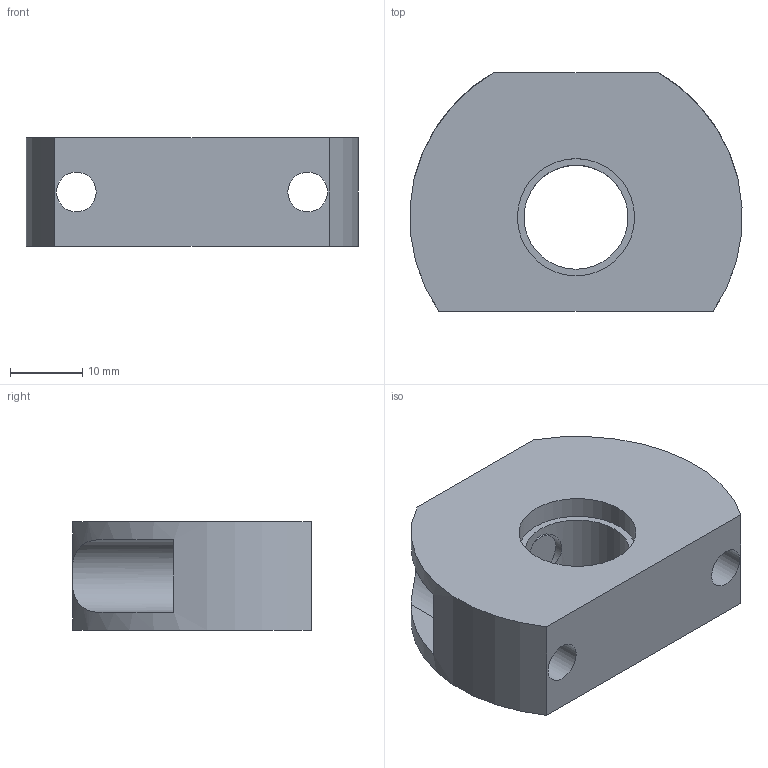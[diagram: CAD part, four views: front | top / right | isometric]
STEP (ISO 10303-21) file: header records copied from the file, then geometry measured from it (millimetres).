
FILE_DESCRIPTION( ( 'STEP AP203' ), '1' );
FILE_NAME( 'C:/Temp/Ganter_Step_05_03_2020/data/3_1/gn612_1/gn612_1_b/Mounting block GN 612.1-M16x1,5-B.stp', '2020-03-12T08:34:41', ( 'License CC BY-ND 4.0' ), ( 'CADENAS' ), ' ', 'PARTsolutions', ' ' );
FILE_SCHEMA( ( 'CONFIG_CONTROL_DESIGN' ) );
Length unit declared in the file: millimetre
Products named in the file (1): _Mounting block GN 612.1-M16x1,5-B
Bounding box: 45.91 x 33 x 15 mm (x, y, z)
Volume: 14173.6 mm3; surface area: 6437.6 mm2
Topology: 1 solids, 1 shells, 37 faces, 87 edges, 57 vertices
Faces by surface type: plane 23, cylinder 11, cone 3
Full cylindrical faces by diameter (mm): 5.5 x2, 6 x1, 6.647 x2, 10 x2, 14.376 x1, 16.2 x1
Entity records: 1152 total; most frequent: CARTESIAN_POINT 283, DIRECTION 174, ORIENTED_EDGE 146, EDGE_CURVE 73, AXIS2_PLACEMENT_3D 68, EDGE_LOOP 60, VERTEX_POINT 55, FACE_OUTER_BOUND 46
